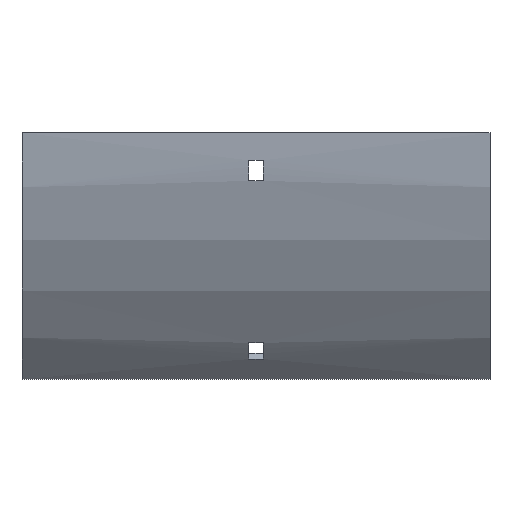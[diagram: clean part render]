
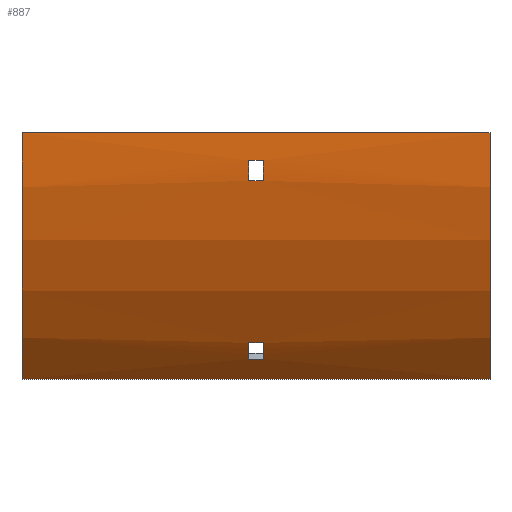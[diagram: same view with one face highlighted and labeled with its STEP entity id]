
A CAD part, front view. The second image highlights one B-rep face of the part: STEP entity #887.
In plain terms, the highlighted cylindrical face has radius 152 mm (diameter 304 mm), a partial arc.
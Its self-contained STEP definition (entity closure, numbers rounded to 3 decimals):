
#1 = DIRECTION ( 'NONE',  ( -1., 0., 0. ) ) ;
#8 = ORIENTED_EDGE ( 'NONE', *, *, #626, .T. ) ;
#23 = DIRECTION ( 'NONE',  ( 1., 0., 0. ) ) ;
#44 = EDGE_LOOP ( 'NONE', ( #643, #139, #413, #8 ) ) ;
#53 = LINE ( 'NONE', #163, #155 ) ;
#54 = VECTOR ( 'NONE', #992, 1000. ) ;
#59 = VERTEX_POINT ( 'NONE', #864 ) ;
#67 = EDGE_CURVE ( 'NONE', #312, #352, #146, .T. ) ;
#70 = VECTOR ( 'NONE', #23, 1000. ) ;
#72 = VERTEX_POINT ( 'NONE', #616 ) ;
#84 = EDGE_CURVE ( 'NONE', #591, #305, #369, .T. ) ;
#104 = EDGE_CURVE ( 'NONE', #305, #72, #713, .T. ) ;
#125 = ORIENTED_EDGE ( 'NONE', *, *, #744, .F. ) ;
#129 = DIRECTION ( 'NONE',  ( -1., 0., 0. ) ) ;
#139 = ORIENTED_EDGE ( 'NONE', *, *, #104, .F. ) ;
#146 = CIRCLE ( 'NONE', #237, 152. ) ;
#155 = VECTOR ( 'NONE', #225, 1000. ) ;
#163 = CARTESIAN_POINT ( 'NONE',  ( 102., -15.63, -98.659 ) ) ;
#165 = ORIENTED_EDGE ( 'NONE', *, *, #242, .F. ) ;
#178 = DIRECTION ( 'NONE',  ( 1., 0., 0. ) ) ;
#181 = DIRECTION ( 'NONE',  ( -1., 0., 0. ) ) ;
#187 = DIRECTION ( 'NONE',  ( -1., 0., 0. ) ) ;
#203 = CARTESIAN_POINT ( 'NONE',  ( 102., -52., 0. ) ) ;
#219 = LINE ( 'NONE', #745, #468 ) ;
#224 = EDGE_CURVE ( 'NONE', #1135, #1090, #219, .T. ) ;
#225 = DIRECTION ( 'NONE',  ( 1., 0., 0. ) ) ;
#226 = ORIENTED_EDGE ( 'NONE', *, *, #224, .T. ) ;
#237 = AXIS2_PLACEMENT_3D ( 'NONE', #1043, #958, #875 ) ;
#242 = EDGE_CURVE ( 'NONE', #408, #634, #754, .T. ) ;
#256 = CARTESIAN_POINT ( 'NONE',  ( 3.25, 100., 0. ) ) ;
#267 = AXIS2_PLACEMENT_3D ( 'NONE', #823, #309, #1101 ) ;
#272 = VERTEX_POINT ( 'NONE', #317 ) ;
#282 = DIRECTION ( 'NONE',  ( 1., 0., 0. ) ) ;
#283 = CIRCLE ( 'NONE', #633, 152. ) ;
#287 = CARTESIAN_POINT ( 'NONE',  ( -102., 100., 0. ) ) ;
#305 = VERTEX_POINT ( 'NONE', #952 ) ;
#309 = DIRECTION ( 'NONE',  ( 1., 0., 0. ) ) ;
#312 = VERTEX_POINT ( 'NONE', #1041 ) ;
#317 = CARTESIAN_POINT ( 'NONE',  ( -102., -52., 0. ) ) ;
#348 = ORIENTED_EDGE ( 'NONE', *, *, #67, .F. ) ;
#352 = VERTEX_POINT ( 'NONE', #868 ) ;
#356 = FACE_BOUND ( 'NONE', #494, .T. ) ;
#369 = CIRCLE ( 'NONE', #893, 152. ) ;
#374 = DIRECTION ( 'NONE',  ( 0., 0., 1. ) ) ;
#377 = DIRECTION ( 'NONE',  ( 0., 0., -1. ) ) ;
#400 = EDGE_LOOP ( 'NONE', ( #165, #1007, #348, #125 ) ) ;
#403 = CARTESIAN_POINT ( 'NONE',  ( -3.25, -15.63, -98.659 ) ) ;
#408 = VERTEX_POINT ( 'NONE', #600 ) ;
#413 = ORIENTED_EDGE ( 'NONE', *, *, #84, .F. ) ;
#438 = CIRCLE ( 'NONE', #1049, 152. ) ;
#468 = VECTOR ( 'NONE', #129, 1000. ) ;
#471 = CARTESIAN_POINT ( 'NONE',  ( 102., -21.299, -91.6 ) ) ;
#479 = ORIENTED_EDGE ( 'NONE', *, *, #980, .T. ) ;
#494 = EDGE_LOOP ( 'NONE', ( #226, #845, #479, #737 ) ) ;
#537 = CARTESIAN_POINT ( 'NONE',  ( -3.25, -51.526, -12. ) ) ;
#543 = FACE_BOUND ( 'NONE', #400, .T. ) ;
#548 = CARTESIAN_POINT ( 'NONE',  ( 102., -51.526, -12. ) ) ;
#554 = DIRECTION ( 'NONE',  ( 0., 0., 1. ) ) ;
#566 = VERTEX_POINT ( 'NONE', #537 ) ;
#591 = VERTEX_POINT ( 'NONE', #203 ) ;
#600 = CARTESIAN_POINT ( 'NONE',  ( -3.25, -21.299, -91.6 ) ) ;
#616 = CARTESIAN_POINT ( 'NONE',  ( -102., -7.48, -107.48 ) ) ;
#619 = CIRCLE ( 'NONE', #1079, 152. ) ;
#626 = EDGE_CURVE ( 'NONE', #591, #272, #1018, .T. ) ;
#633 = AXIS2_PLACEMENT_3D ( 'NONE', #256, #282, #983 ) ;
#634 = VERTEX_POINT ( 'NONE', #403 ) ;
#641 = DIRECTION ( 'NONE',  ( 0., 0., -1. ) ) ;
#643 = ORIENTED_EDGE ( 'NONE', *, *, #884, .T. ) ;
#647 = FACE_OUTER_BOUND ( 'NONE', #44, .T. ) ;
#705 = CARTESIAN_POINT ( 'NONE',  ( -3.25, 100., 0. ) ) ;
#711 = AXIS2_PLACEMENT_3D ( 'NONE', #821, #187, #374 ) ;
#713 = LINE ( 'NONE', #1068, #1061 ) ;
#721 = DIRECTION ( 'NONE',  ( 1., 0., 0. ) ) ;
#733 = LINE ( 'NONE', #471, #849 ) ;
#737 = ORIENTED_EDGE ( 'NONE', *, *, #954, .T. ) ;
#738 = CARTESIAN_POINT ( 'NONE',  ( 102., -52., 0. ) ) ;
#744 = EDGE_CURVE ( 'NONE', #634, #312, #53, .T. ) ;
#745 = CARTESIAN_POINT ( 'NONE',  ( 102., -50.542, -21. ) ) ;
#754 = CIRCLE ( 'NONE', #267, 152. ) ;
#821 = CARTESIAN_POINT ( 'NONE',  ( 102., 100., 0. ) ) ;
#823 = CARTESIAN_POINT ( 'NONE',  ( -3.25, 100., 0. ) ) ;
#845 = ORIENTED_EDGE ( 'NONE', *, *, #912, .T. ) ;
#849 = VECTOR ( 'NONE', #181, 1000. ) ;
#864 = CARTESIAN_POINT ( 'NONE',  ( 3.25, -51.526, -12. ) ) ;
#868 = CARTESIAN_POINT ( 'NONE',  ( 3.25, -21.299, -91.6 ) ) ;
#875 = DIRECTION ( 'NONE',  ( 0., 0., 1. ) ) ;
#884 = EDGE_CURVE ( 'NONE', #272, #72, #619, .T. ) ;
#887 = ADVANCED_FACE ( 'NONE', ( #647, #356, #543 ), #1144, .T. ) ;
#893 = AXIS2_PLACEMENT_3D ( 'NONE', #1081, #178, #377 ) ;
#903 = LINE ( 'NONE', #548, #70 ) ;
#912 = EDGE_CURVE ( 'NONE', #1090, #566, #438, .T. ) ;
#920 = EDGE_CURVE ( 'NONE', #352, #408, #733, .T. ) ;
#930 = CARTESIAN_POINT ( 'NONE',  ( 3.25, -50.542, -21. ) ) ;
#952 = CARTESIAN_POINT ( 'NONE',  ( 102., -7.48, -107.48 ) ) ;
#954 = EDGE_CURVE ( 'NONE', #59, #1135, #283, .T. ) ;
#958 = DIRECTION ( 'NONE',  ( -1., 0., 0. ) ) ;
#980 = EDGE_CURVE ( 'NONE', #566, #59, #903, .T. ) ;
#983 = DIRECTION ( 'NONE',  ( 0., 0., -1. ) ) ;
#992 = DIRECTION ( 'NONE',  ( -1., 0., 0. ) ) ;
#1007 = ORIENTED_EDGE ( 'NONE', *, *, #920, .F. ) ;
#1014 = CARTESIAN_POINT ( 'NONE',  ( -3.25, -50.542, -21. ) ) ;
#1018 = LINE ( 'NONE', #738, #54 ) ;
#1041 = CARTESIAN_POINT ( 'NONE',  ( 3.25, -15.63, -98.659 ) ) ;
#1043 = CARTESIAN_POINT ( 'NONE',  ( 3.25, 100., 0. ) ) ;
#1049 = AXIS2_PLACEMENT_3D ( 'NONE', #705, #1150, #554 ) ;
#1061 = VECTOR ( 'NONE', #1, 1000. ) ;
#1068 = CARTESIAN_POINT ( 'NONE',  ( 102., -7.48, -107.48 ) ) ;
#1079 = AXIS2_PLACEMENT_3D ( 'NONE', #287, #721, #641 ) ;
#1081 = CARTESIAN_POINT ( 'NONE',  ( 102., 100., 0. ) ) ;
#1090 = VERTEX_POINT ( 'NONE', #1014 ) ;
#1101 = DIRECTION ( 'NONE',  ( 0., 0., -1. ) ) ;
#1135 = VERTEX_POINT ( 'NONE', #930 ) ;
#1144 = CYLINDRICAL_SURFACE ( 'NONE', #711, 152. ) ;
#1150 = DIRECTION ( 'NONE',  ( -1., 0., 0. ) ) ;
